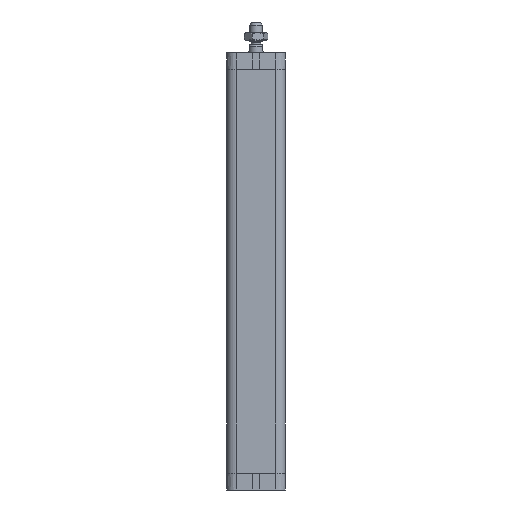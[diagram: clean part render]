
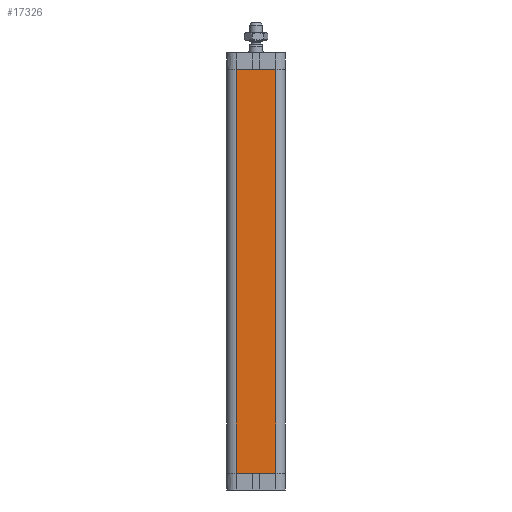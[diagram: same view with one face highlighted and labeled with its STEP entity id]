
A CAD part, left-side view. The second image highlights one B-rep face of the part: STEP entity #17326.
In plain terms, the highlighted planar face has unit normal (-1, 0, 0).
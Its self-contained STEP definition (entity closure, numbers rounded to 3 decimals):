
#1555=LINE('',#27010,#2609);
#1599=LINE('',#27184,#2653);
#1600=LINE('',#27186,#2654);
#1601=LINE('',#27188,#2655);
#2609=VECTOR('',#21162,1000.);
#2653=VECTOR('',#21294,1000.);
#2654=VECTOR('',#21297,1000.);
#2655=VECTOR('',#21298,1000.);
#3082=PLANE('',#18380);
#6172=ORIENTED_EDGE('',*,*,#8221,.T.);
#6173=ORIENTED_EDGE('',*,*,#8308,.F.);
#6174=ORIENTED_EDGE('',*,*,#8309,.F.);
#6175=ORIENTED_EDGE('',*,*,#8310,.T.);
#8221=EDGE_CURVE('',#9563,#9562,#1555,.T.);
#8308=EDGE_CURVE('',#9648,#9562,#1599,.T.);
#8309=EDGE_CURVE('',#9649,#9648,#1600,.T.);
#8310=EDGE_CURVE('',#9649,#9563,#1601,.T.);
#9562=VERTEX_POINT('',#27009);
#9563=VERTEX_POINT('',#27011);
#9648=VERTEX_POINT('',#27183);
#9649=VERTEX_POINT('',#27187);
#11027=EDGE_LOOP('',(#6172,#6173,#6174,#6175));
#11951=FACE_BOUND('',#11027,.T.);
#17326=ADVANCED_FACE('',(#11951),#3082,.T.);
#18380=AXIS2_PLACEMENT_3D('',#27185,#21295,#21296);
#21162=DIRECTION('',(0.,1.,0.));
#21294=DIRECTION('',(0.,0.,1.));
#21295=DIRECTION('',(-1.,0.,0.));
#21296=DIRECTION('',(0.,0.,1.));
#21297=DIRECTION('',(0.,1.,0.));
#21298=DIRECTION('',(0.,0.,1.));
#27009=CARTESIAN_POINT('',(-24.5,16.5,20.8));
#27010=CARTESIAN_POINT('',(-24.5,-16.5,20.8));
#27011=CARTESIAN_POINT('',(-24.5,-16.5,20.8));
#27183=CARTESIAN_POINT('',(-24.5,16.5,-315.));
#27184=CARTESIAN_POINT('',(-24.5,16.5,0.));
#27185=CARTESIAN_POINT('',(-24.5,-16.5,0.));
#27186=CARTESIAN_POINT('',(-24.5,-16.5,-315.));
#27187=CARTESIAN_POINT('',(-24.5,-16.5,-315.));
#27188=CARTESIAN_POINT('',(-24.5,-16.5,0.));
